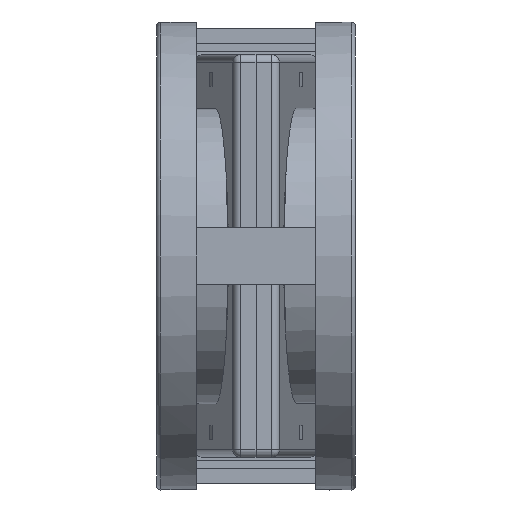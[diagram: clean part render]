
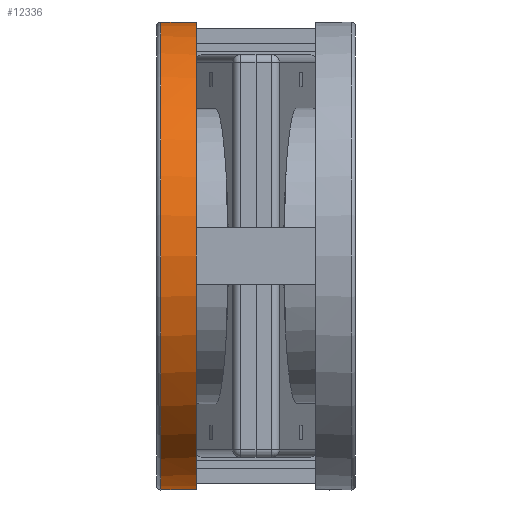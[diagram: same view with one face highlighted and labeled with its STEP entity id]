
A CAD part, front view. The second image highlights one B-rep face of the part: STEP entity #12336.
In plain terms, the highlighted cylindrical face has radius 82.4 mm (diameter 164.8 mm), a full revolution.
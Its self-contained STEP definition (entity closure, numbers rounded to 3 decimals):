
#3101=ELLIPSE('',#31515,82.715,82.4);
#5533=FACE_BOUND('',#15359,.T.);
#5534=FACE_BOUND('',#15360,.T.);
#5977=CYLINDRICAL_SURFACE('',#31516,82.4);
#12336=ADVANCED_FACE('',(#5533,#5534),#5977,.T.);
#15359=EDGE_LOOP('',(#22361));
#15360=EDGE_LOOP('',(#22362,#22363));
#22361=ORIENTED_EDGE('',*,*,#28594,.T.);
#22362=ORIENTED_EDGE('',*,*,#28570,.F.);
#22363=ORIENTED_EDGE('',*,*,#28595,.T.);
#25020=VERTEX_POINT('',#47932);
#25021=VERTEX_POINT('',#47933);
#25045=VERTEX_POINT('',#48034);
#28570=EDGE_CURVE('',#25020,#25021,#29469,.T.);
#28594=EDGE_CURVE('',#25045,#25045,#29480,.T.);
#28595=EDGE_CURVE('',#25020,#25021,#3101,.T.);
#29469=CIRCLE('',#31499,82.4);
#29480=CIRCLE('',#31514,82.4);
#31499=AXIS2_PLACEMENT_3D('',#47934,#38102,#38103);
#31514=AXIS2_PLACEMENT_3D('',#48033,#38144,#38145);
#31515=AXIS2_PLACEMENT_3D('',#48035,#38146,#38147);
#31516=AXIS2_PLACEMENT_3D('',#48036,#38148,#38149);
#38102=DIRECTION('',(-1.,0.,0.));
#38103=DIRECTION('',(0.,1.,0.));
#38144=DIRECTION('',(-1.,0.,0.));
#38145=DIRECTION('',(0.,1.,0.));
#38146=DIRECTION('',(0.996,-0.087,0.));
#38147=DIRECTION('',(-0.087,-0.996,0.));
#38148=DIRECTION('',(-1.,0.,0.));
#38149=DIRECTION('',(0.,1.,0.));
#47932=CARTESIAN_POINT('',(21.,76.47,-30.692));
#47933=CARTESIAN_POINT('',(21.,76.47,30.692));
#47934=CARTESIAN_POINT('',(21.,0.,0.));
#48033=CARTESIAN_POINT('',(33.5,0.,0.));
#48034=CARTESIAN_POINT('',(33.5,82.4,0.));
#48035=CARTESIAN_POINT('',(14.31,0.,0.));
#48036=CARTESIAN_POINT('',(13.6,0.,0.));
